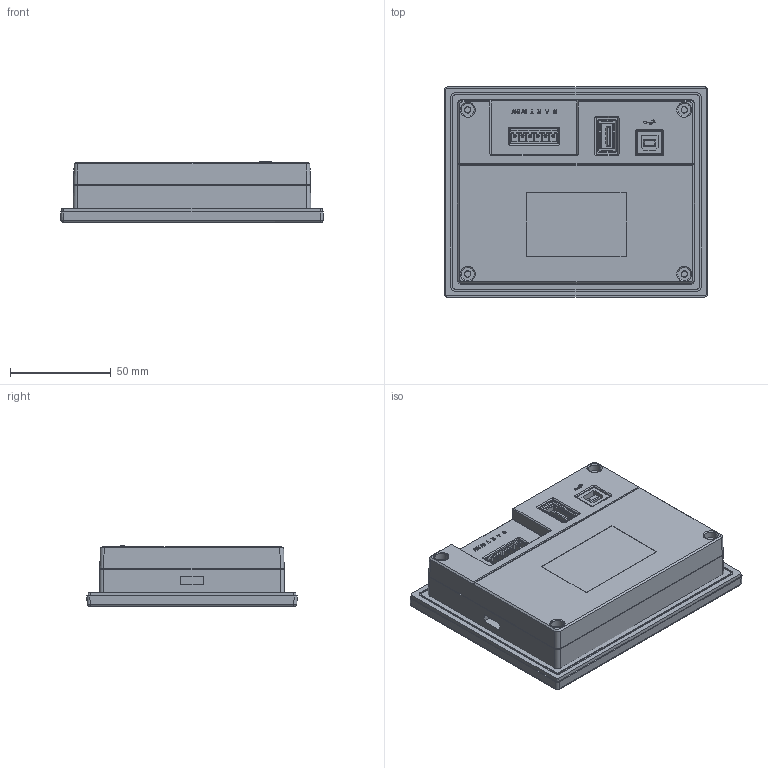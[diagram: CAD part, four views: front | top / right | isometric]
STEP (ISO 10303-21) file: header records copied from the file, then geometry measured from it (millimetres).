
FILE_DESCRIPTION(/* description */ (''),/* implementation_level */ '2;1');
FILE_NAME(/* name */ 'TG465G~2',/* time_stamp */ '2023-04-18T14:21:32+08:00',/* author */ (''),/* organization */ (''),/* preprocessor_version */ 'ST-DEVELOPER v16.5',/* originating_system */ '',/* authorisation */ '');
FILE_SCHEMA (('AUTOMOTIVE_DESIGN'));
Products named in the file (2): Document; 图块 01
Assembly tree (1 placements, depth 2):
  Document
    图块 01
Bounding box: 130.26 x 104.26 x 30 mm (x, y, z)
Volume: 152594.5 mm3; surface area: 120732.5 mm2
Topology: 58 solids, 59 shells, 3078 faces, 8419 edges, 5521 vertices
Faces by surface type: plane 1807, bspline 1271
Entity records: 110983 total; most frequent: CARTESIAN_POINT 58408, ORIENTED_EDGE 16814, EDGE_CURVE 8415, B_SPLINE_CURVE_WITH_KNOTS 6085, VERTEX_POINT 5519, EDGE_LOOP 3226, ADVANCED_FACE 3074, FACE_OUTER_BOUND 3074
